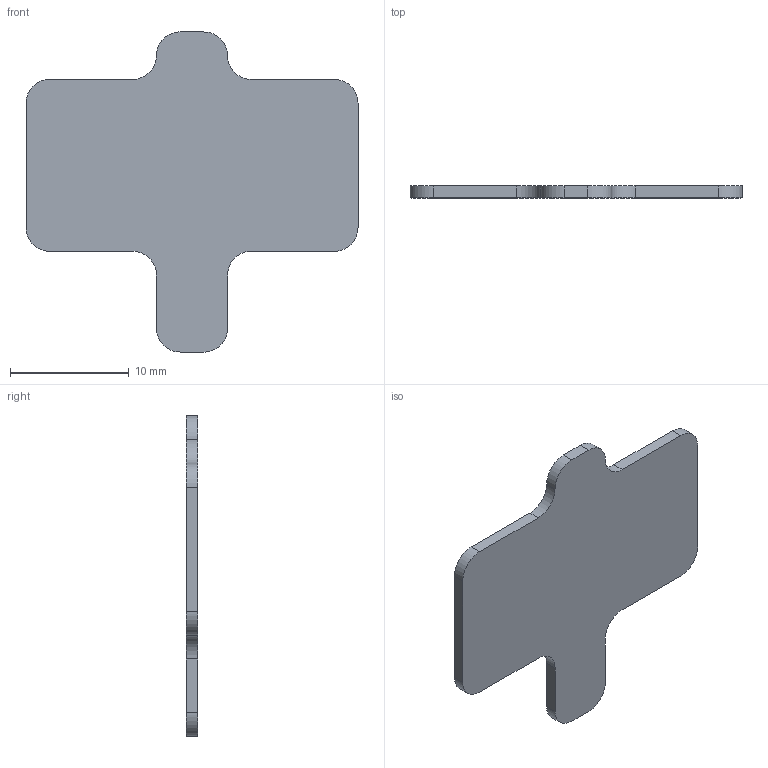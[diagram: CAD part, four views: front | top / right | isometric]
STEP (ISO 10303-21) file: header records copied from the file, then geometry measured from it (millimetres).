
FILE_DESCRIPTION(('CATIA V5 STEP Exchange'),'2;1');
FILE_NAME('E:\Dropbox\3D Printer Fan Duct Designs\1.) Artillery Sidewinder X1\3D Models\5015 Double Ducts\VOLCANO\Volcano ALL Step Files\TPU Fan Bracket (Print 2x).stp','2021-03-06T10:58:48+00:00',('none'),('none'),'CATIA Version 5 Release 20 SP 1 (IN-10)','CATIA V5 STEP AP214','none');
FILE_SCHEMA(('AUTOMOTIVE_DESIGN { 1 0 10303 214 1 1 1 1 }'));
Length unit declared in the file: millimetre
Products named in the file (1): TPU Fan Bracket
Bounding box: 28 x 1 x 27 mm (x, y, z)
Volume: 477.6 mm3; surface area: 1054.8 mm2
Topology: 1 solids, 1 shells, 24 faces, 66 edges, 44 vertices
Faces by surface type: plane 12, bspline 12
Entity records: 1145 total; most frequent: CARTESIAN_POINT 608, ORIENTED_EDGE 132, EDGE_CURVE 66, DIRECTION 58, VERTEX_POINT 44, B_SPLINE_CURVE_WITH_KNOTS 36, VECTOR 30, LINE 30
